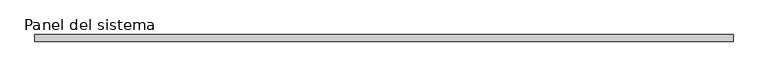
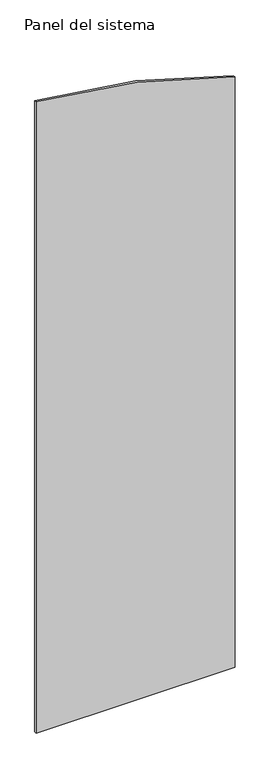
"""IFC4 building model written with IfcOpenShell, lengths in millimetres: plate geometry, Panel del sistema : HIANSA PANEL - PANELES DE CUBIERTA SIN TAPAJUNTA - EASY AGRO 5GR - Esp. 10mm."""

from ifc_helpers import new_model, si_unit, point, frame, frame_2d, origin, place, context, project, spatial, polyline, circle_curve, trimmed, segment, composite_curve, outline, extrude, source, transform, mapped, element, save


def panel_del_sistema_3c2f56ea(model_context):
    return source(origin(), model_context, "Body", "SweptSolid", [
        extrude(outline(composite_curve([segment(polyline([(0.0, -500.0), (0.0, 500.0), (3136.4414049, 500.0)]), True, "CONTINUOUS"), segment(trimmed(circle_curve(frame_2d((-233.0990651, -750.0000003)), 3593.9258451), [point((3136.4414049, 500.0))], [point((3352.121009, -500.0))], False, "CARTESIAN"), True, "CONTINUOUS"), segment(polyline([(3352.121009, -500.0), (0.0, -500.0)]), True, "CONTINUOUS")], self_intersect=False)), frame((0.0, 0.0, 0.0), z_axis=(0.0, 1.0, 0.0), x_axis=(0.0, 0.0, 1.0)), (0.0, 0.0, 1.0), 10.0),
    ])


if __name__ == "__main__":
    model = new_model("IFC4")
    model_context = context("Model", 3, world=origin())
    ifc_project = project(units=[si_unit("LENGTHUNIT", "METRE", prefix="MILLI")], contexts=[model_context])
    site = spatial("IfcSite", under=ifc_project)
    building = spatial("IfcBuilding", under=site)
    placement = place(None, origin())
    panel_del_sistema_shape = panel_del_sistema_3c2f56ea(model_context)
    element("IfcPlate", 1, ObjectType="Panel del sistema : HIANSA PANEL - PANELES DE CUBIERTA SIN TAPAJUNTA - EASY AGRO 5GR - Esp. 10mm", at=placement, inside=building, context=model_context, shape_type="MappedRepresentation", body=[
        mapped(panel_del_sistema_shape, transform((0.0, 0.0, 0.0), x_axis=(1.0, 0.0, 0.0), y_axis=(0.0, 1.0, 0.0), z_axis=(0.0, 0.0, 1.0))),
    ])
    save(model, "model.ifc")
